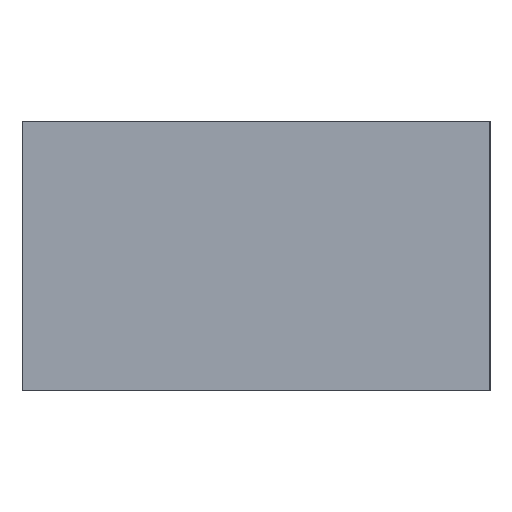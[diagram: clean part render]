
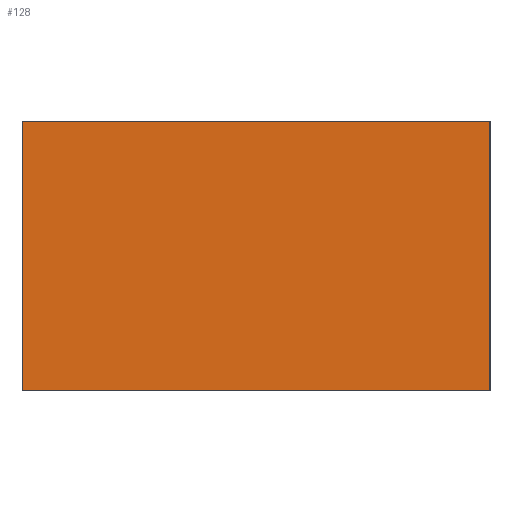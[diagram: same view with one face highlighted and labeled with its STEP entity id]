
A CAD part, front view. The second image highlights one B-rep face of the part: STEP entity #128.
In plain terms, the highlighted planar face has unit normal (0, -1, 0).
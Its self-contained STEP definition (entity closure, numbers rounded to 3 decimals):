
#10 = EDGE_CURVE ( 'NONE', #65, #307, #126, .T. ) ;
#22 = VECTOR ( 'NONE', #217, 1000. ) ;
#31 = FACE_OUTER_BOUND ( 'NONE', #334, .T. ) ;
#42 = CARTESIAN_POINT ( 'NONE',  ( 0., -88.568, 0. ) ) ;
#63 = DIRECTION ( 'NONE',  ( 0., 0., 1. ) ) ;
#65 = VERTEX_POINT ( 'NONE', #371 ) ;
#68 = LINE ( 'NONE', #344, #109 ) ;
#86 = ORIENTED_EDGE ( 'NONE', *, *, #10, .T. ) ;
#92 = DIRECTION ( 'NONE',  ( 0., 0., 1. ) ) ;
#104 = EDGE_CURVE ( 'NONE', #394, #397, #68, .T. ) ;
#107 = DIRECTION ( 'NONE',  ( 1., 0., 0. ) ) ;
#109 = VECTOR ( 'NONE', #63, 1000. ) ;
#116 = CARTESIAN_POINT ( 'NONE',  ( 19.266, -88.568, 0. ) ) ;
#121 = ORIENTED_EDGE ( 'NONE', *, *, #400, .T. ) ;
#122 = VECTOR ( 'NONE', #107, 1000. ) ;
#126 = LINE ( 'NONE', #293, #305 ) ;
#128 = ADVANCED_FACE ( 'NONE', ( #31 ), #228, .T. ) ;
#133 = CARTESIAN_POINT ( 'NONE',  ( 0., -88.568, -10. ) ) ;
#188 = ORIENTED_EDGE ( 'NONE', *, *, #104, .F. ) ;
#217 = DIRECTION ( 'NONE',  ( 1., 0., 0. ) ) ;
#222 = ORIENTED_EDGE ( 'NONE', *, *, #227, .F. ) ;
#227 = EDGE_CURVE ( 'NONE', #397, #307, #357, .T. ) ;
#228 = PLANE ( 'NONE',  #355 ) ;
#242 = CARTESIAN_POINT ( 'NONE',  ( 0., -88.568, -10. ) ) ;
#249 = CARTESIAN_POINT ( 'NONE',  ( 1.959, -88.568, -10. ) ) ;
#260 = DIRECTION ( 'NONE',  ( 0., -1., 0. ) ) ;
#293 = CARTESIAN_POINT ( 'NONE',  ( 19.266, -88.568, -10. ) ) ;
#305 = VECTOR ( 'NONE', #92, 1000. ) ;
#307 = VERTEX_POINT ( 'NONE', #116 ) ;
#334 = EDGE_LOOP ( 'NONE', ( #222, #188, #121, #86 ) ) ;
#344 = CARTESIAN_POINT ( 'NONE',  ( 1.959, -88.568, -10. ) ) ;
#355 = AXIS2_PLACEMENT_3D ( 'NONE', #133, #260, #379 ) ;
#357 = LINE ( 'NONE', #42, #122 ) ;
#365 = LINE ( 'NONE', #242, #22 ) ;
#371 = CARTESIAN_POINT ( 'NONE',  ( 19.266, -88.568, -10. ) ) ;
#379 = DIRECTION ( 'NONE',  ( 1., 0., 0. ) ) ;
#387 = CARTESIAN_POINT ( 'NONE',  ( 1.959, -88.568, 0. ) ) ;
#394 = VERTEX_POINT ( 'NONE', #249 ) ;
#397 = VERTEX_POINT ( 'NONE', #387 ) ;
#400 = EDGE_CURVE ( 'NONE', #394, #65, #365, .T. ) ;
